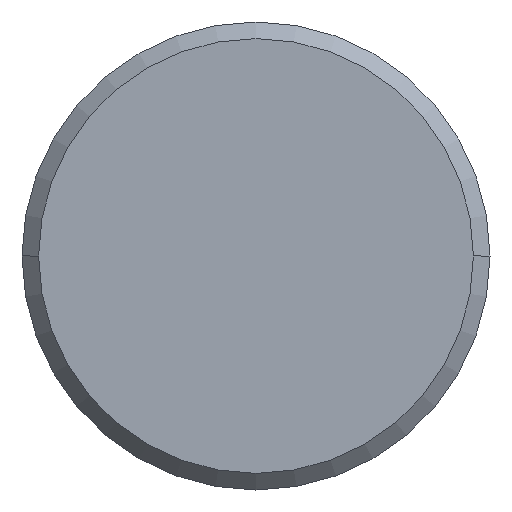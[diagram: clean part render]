
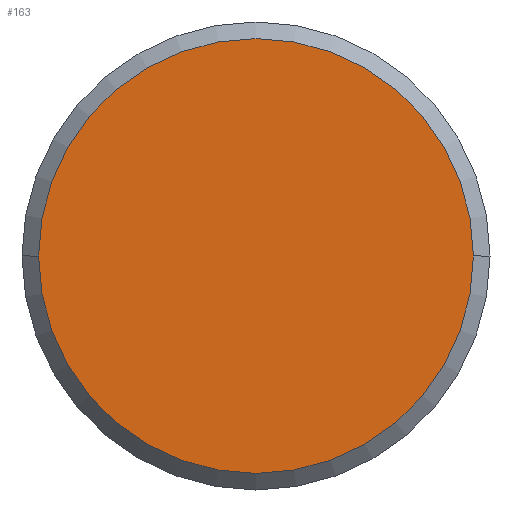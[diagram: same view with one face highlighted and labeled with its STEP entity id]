
A CAD part, front view. The second image highlights one B-rep face of the part: STEP entity #163.
In plain terms, the highlighted planar face has unit normal (0, -1, 0).
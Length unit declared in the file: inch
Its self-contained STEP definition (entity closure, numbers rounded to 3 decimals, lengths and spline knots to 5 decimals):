
#163 = ADVANCED_FACE ( 'NONE', ( #649 ), #1683, .T. ) ;
#389 = ORIENTED_EDGE ( 'NONE', *, *, #1154, .T. ) ;
#393 = ORIENTED_EDGE ( 'NONE', *, *, #897, .T. ) ;
#454 = CIRCLE ( 'NONE', #873, 0.8175 ) ;
#533 = VERTEX_POINT ( 'NONE', #1354 ) ;
#548 = VERTEX_POINT ( 'NONE', #1333 ) ;
#639 = EDGE_LOOP ( 'NONE', ( #393, #389 ) ) ;
#649 = FACE_OUTER_BOUND ( 'NONE', #639, .T. ) ;
#873 = AXIS2_PLACEMENT_3D ( 'NONE', #1592, #1593, #1594 ) ;
#897 = EDGE_CURVE ( 'NONE', #548, #533, #1483, .T. ) ;
#961 = AXIS2_PLACEMENT_3D ( 'NONE', #1789, #1787, #1786 ) ;
#1035 = AXIS2_PLACEMENT_3D ( 'NONE', #1689, #1677, #1676 ) ;
#1154 = EDGE_CURVE ( 'NONE', #533, #548, #454, .T. ) ;
#1333 = CARTESIAN_POINT ( 'NONE',  ( -3.31624, -0.86773, 0. ) ) ;
#1354 = CARTESIAN_POINT ( 'NONE',  ( -1.68124, -0.86773, 0. ) ) ;
#1483 = CIRCLE ( 'NONE', #961, 0.8175 ) ;
#1592 = CARTESIAN_POINT ( 'NONE',  ( -2.49874, -0.86773, 0. ) ) ;
#1593 = DIRECTION ( 'NONE',  ( 0., -1., 0. ) ) ;
#1594 = DIRECTION ( 'NONE',  ( -1., 0., 0. ) ) ;
#1676 = DIRECTION ( 'NONE',  ( 0., 0., -1. ) ) ;
#1677 = DIRECTION ( 'NONE',  ( 0., -1., 0. ) ) ;
#1683 = PLANE ( 'NONE',  #1035 ) ;
#1689 = CARTESIAN_POINT ( 'NONE',  ( -1.81474, -0.86773, 0. ) ) ;
#1786 = DIRECTION ( 'NONE',  ( -1., 0., 0. ) ) ;
#1787 = DIRECTION ( 'NONE',  ( 0., -1., 0. ) ) ;
#1789 = CARTESIAN_POINT ( 'NONE',  ( -2.49874, -0.86773, 0. ) ) ;
